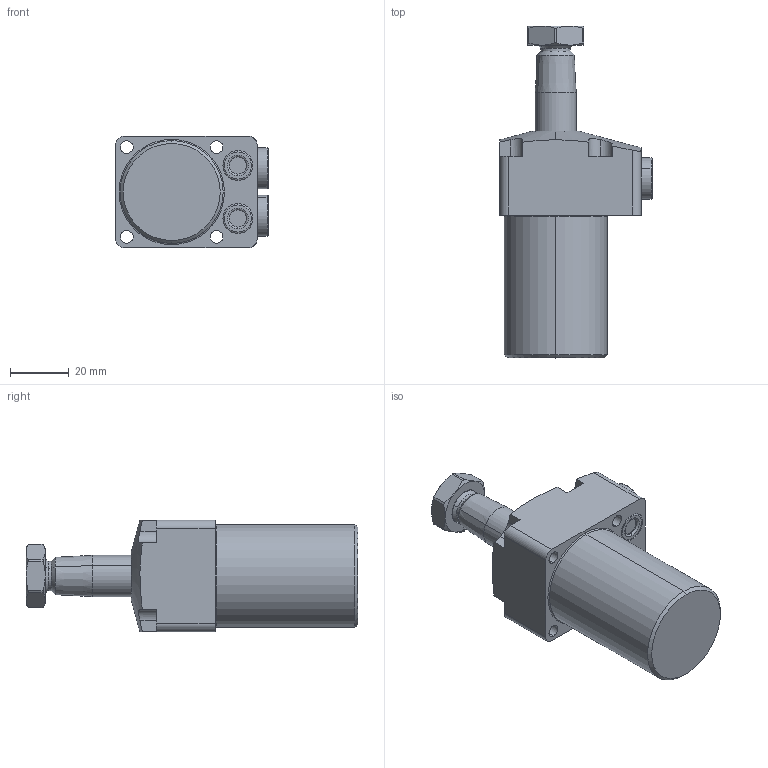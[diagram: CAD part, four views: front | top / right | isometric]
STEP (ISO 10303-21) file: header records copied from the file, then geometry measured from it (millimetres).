
FILE_DESCRIPTION(/* description */ (''),/* implementation_level */ '2;1');
FILE_NAME(/* name */ 'TRC01-RN30.stp',/* time_stamp */ '2025-01-04T09:24:35+08:00',/* author */ (''),/* organization */ (''),/* preprocessor_version */ 'ST-DEVELOPER v16.7',/* originating_system */ 'SIEMENS PLM Software NX 12.0',/* authorisation */ '');
FILE_SCHEMA (('AUTOMOTIVE_DESIGN { 1 0 10303 214 3 1 1 1 }'));
Length unit declared in the file: millimetre
Products named in the file (5): TRC01-RN30-04; TRC01-RN30-03; TRC01-RN30-02; TRC01-RN30-01; TRC01-RN30_stp
Assembly tree (5 placements, depth 2):
  TRC01-RN30_stp
    TRC01-RN30-01
    TRC01-RN30-02
    TRC01-RN30-03
    TRC01-RN30-04  x2
Bounding box: 51.8 x 112.8 x 38 mm (x, y, z)
Volume: 96092.8 mm3; surface area: 20235.1 mm2
Topology: 7 solids, 7 shells, 203 faces, 457 edges, 280 vertices
Faces by surface type: cylinder 73, plane 67, cone 40, torus 22, sphere 1
Entity records: 5425 total; most frequent: CARTESIAN_POINT 1151, DIRECTION 922, ORIENTED_EDGE 820, EDGE_CURVE 410, AXIS2_PLACEMENT_3D 378, VERTEX_POINT 252, EDGE_LOOP 206, CIRCLE 191
